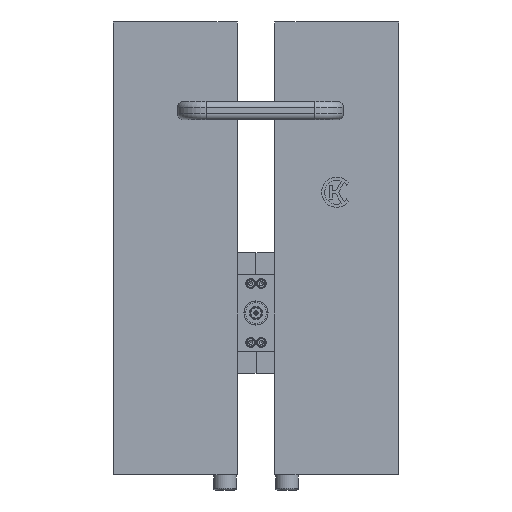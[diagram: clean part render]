
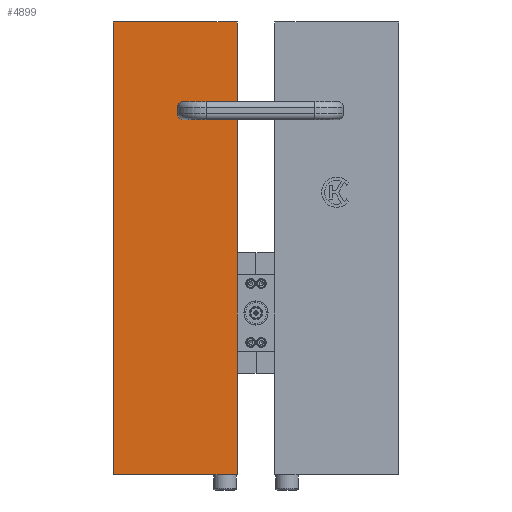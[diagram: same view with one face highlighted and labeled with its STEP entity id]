
A CAD part, front view. The second image highlights one B-rep face of the part: STEP entity #4899.
In plain terms, the highlighted planar face has unit normal (0, -1, 0) as drawn and (-1, 0, 0) by its records, which use the part's own axes.
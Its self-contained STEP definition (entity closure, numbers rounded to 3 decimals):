
#4899=ADVANCED_FACE('',(#9065),#9067,.T.);
#9065=FACE_BOUND('',#9066,.T.);
#9066=EDGE_LOOP('',(#13452,#13453,#13454,#13455));
#9067=PLANE('',#9068);
#9068=AXIS2_PLACEMENT_3D('',#9069,#9070,#9071);
#9069=CARTESIAN_POINT('',(-150.,0.,-150.));
#9070=DIRECTION('',(-1.,0.,0.));
#9071=DIRECTION('',(0.,-1.,0.));
#13452=ORIENTED_EDGE('',*,*,#15051,.T.);
#13453=ORIENTED_EDGE('',*,*,#15281,.T.);
#13454=ORIENTED_EDGE('',*,*,#15071,.F.);
#13455=ORIENTED_EDGE('',*,*,#15053,.F.);
#15051=EDGE_CURVE('',#16956,#16954,#16957,.T.);
#15053=EDGE_CURVE('',#16956,#16959,#16960,.T.);
#15071=EDGE_CURVE('',#16959,#16994,#16995,.T.);
#15281=EDGE_CURVE('',#16954,#16994,#17317,.T.);
#16954=VERTEX_POINT('',#20966);
#16956=VERTEX_POINT('',#20970);
#16957=LINE('',#20971,#20972);
#16959=VERTEX_POINT('',#20977);
#16960=LINE('',#20978,#20979);
#16994=VERTEX_POINT('',#21064);
#16995=LINE('',#21065,#21066);
#17317=LINE('',#21823,#21824);
#20966=CARTESIAN_POINT('',(-150.,-82.,-150.));
#20970=CARTESIAN_POINT('',(-150.,0.,-150.));
#20971=CARTESIAN_POINT('',(-150.,0.,-150.));
#20972=VECTOR('',#20973,1.);
#20973=DIRECTION('',(0.,-1.,0.));
#20977=CARTESIAN_POINT('',(-150.,0.,150.));
#20978=CARTESIAN_POINT('',(-150.,0.,-150.));
#20979=VECTOR('',#20980,1.);
#20980=DIRECTION('',(0.,0.,1.));
#21064=CARTESIAN_POINT('',(-150.,-82.,150.));
#21065=CARTESIAN_POINT('',(-150.,0.,150.));
#21066=VECTOR('',#21067,1.);
#21067=DIRECTION('',(0.,-1.,0.));
#21823=CARTESIAN_POINT('',(-150.,-82.,-150.));
#21824=VECTOR('',#21825,1.);
#21825=DIRECTION('',(0.,0.,1.));
